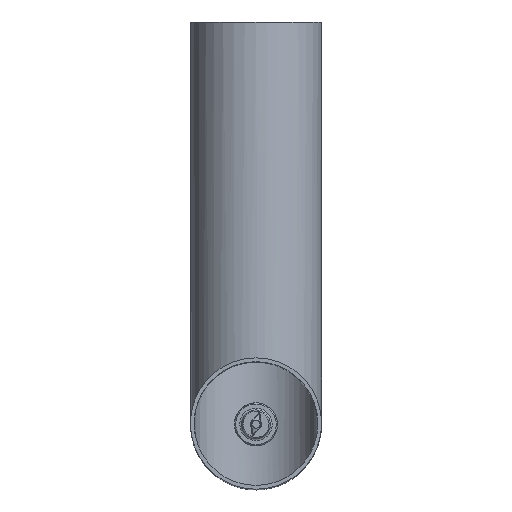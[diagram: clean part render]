
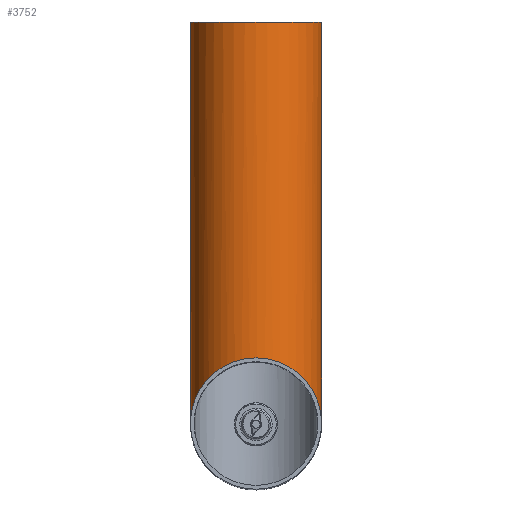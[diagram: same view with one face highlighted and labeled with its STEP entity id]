
A CAD part, top view. The second image highlights one B-rep face of the part: STEP entity #3752.
In plain terms, the highlighted cylindrical face has radius 36.5 mm (diameter 73 mm), a full revolution.
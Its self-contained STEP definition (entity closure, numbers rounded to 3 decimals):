
#676=CIRCLE('',#5813,36.5);
#781=B_SPLINE_CURVE_WITH_KNOTS('',3,(#6887,#6888,#6889,#6890,#6891,#6892,
#6893,#6894,#6895,#6896,#6897,#6898,#6899,#6900,#6901,#6902,#6903,#6904,
#6905),.UNSPECIFIED.,.T.,.F.,(1,1,1,1,1,1,1,1,1,1,1,1,1,1,1,1,1,1,1,1,1,
1,1),(-0.014,-0.009,-0.005,0.,
0.005,0.009,0.014,0.019,
0.024,0.028,0.033,0.038,
0.042,0.047,0.052,0.057,
0.061,0.066,0.071,0.076,
0.08,0.085,0.09),.UNSPECIFIED.);
#1012=ORIENTED_EDGE('',*,*,#2122,.T.);
#1013=ORIENTED_EDGE('',*,*,#2123,.F.);
#1014=ORIENTED_EDGE('',*,*,#2124,.F.);
#2122=EDGE_CURVE('',#2677,#2677,#676,.T.);
#2123=EDGE_CURVE('',#2678,#2678,#3040,.T.);
#2124=EDGE_CURVE('',#2679,#2679,#781,.T.);
#2677=VERTEX_POINT('',#6884);
#2678=VERTEX_POINT('',#6886);
#2679=VERTEX_POINT('',#6906);
#3040=ELLIPSE('',#5814,51.619,36.5);
#3049=EDGE_LOOP('',(#1012));
#3050=EDGE_LOOP('',(#1013));
#3051=EDGE_LOOP('',(#1014));
#3379=FACE_BOUND('',#3049,.T.);
#3380=FACE_BOUND('',#3050,.T.);
#3381=FACE_BOUND('',#3051,.T.);
#3707=CYLINDRICAL_SURFACE('',#5812,36.5);
#3752=ADVANCED_FACE('',(#3379,#3380,#3381),#3707,.T.);
#5812=AXIS2_PLACEMENT_3D('',#6882,#6096,#6097);
#5813=AXIS2_PLACEMENT_3D('',#6883,#6098,#6099);
#5814=AXIS2_PLACEMENT_3D('',#6885,#6100,#6101);
#6096=DIRECTION('',(0.,-1.,0.));
#6097=DIRECTION('',(0.,0.,-1.));
#6098=DIRECTION('',(0.,-1.,0.));
#6099=DIRECTION('',(0.,0.,-1.));
#6100=DIRECTION('',(0.,-0.707,0.707));
#6101=DIRECTION('',(0.,-0.707,-0.707));
#6882=CARTESIAN_POINT('',(0.,246.5,0.));
#6883=CARTESIAN_POINT('',(0.,223.5,0.));
#6884=CARTESIAN_POINT('',(0.,223.5,-36.5));
#6885=CARTESIAN_POINT('',(0.,0.,0.));
#6886=CARTESIAN_POINT('',(0.,-36.5,-36.5));
#6887=CARTESIAN_POINT('',(-4.749,11.36,-36.282));
#6888=CARTESIAN_POINT('',(0.001,12.32,-36.609));
#6889=CARTESIAN_POINT('',(4.746,11.361,-36.283));
#6890=CARTESIAN_POINT('',(8.705,8.698,-35.503));
#6891=CARTESIAN_POINT('',(11.361,4.743,-34.703));
#6892=CARTESIAN_POINT('',(12.318,0.011,-34.355));
#6893=CARTESIAN_POINT('',(11.366,-4.736,-34.701));
#6894=CARTESIAN_POINT('',(8.7,-8.704,-35.504));
#6895=CARTESIAN_POINT('',(4.741,-11.362,-36.283));
#6896=CARTESIAN_POINT('',(0.006,-12.318,-36.608));
#6897=CARTESIAN_POINT('',(-4.735,-11.366,-36.284));
#6898=CARTESIAN_POINT('',(-8.701,-8.703,-35.504));
#6899=CARTESIAN_POINT('',(-11.363,-4.741,-34.702));
#6900=CARTESIAN_POINT('',(-12.318,-0.002,-34.355));
#6901=CARTESIAN_POINT('',(-11.364,4.74,-34.702));
#6902=CARTESIAN_POINT('',(-8.704,8.699,-35.503));
#6903=CARTESIAN_POINT('',(-4.749,11.36,-36.282));
#6904=CARTESIAN_POINT('',(0.001,12.32,-36.609));
#6905=CARTESIAN_POINT('',(4.746,11.361,-36.283));
#6906=CARTESIAN_POINT('',(0.,12.,-36.5));
